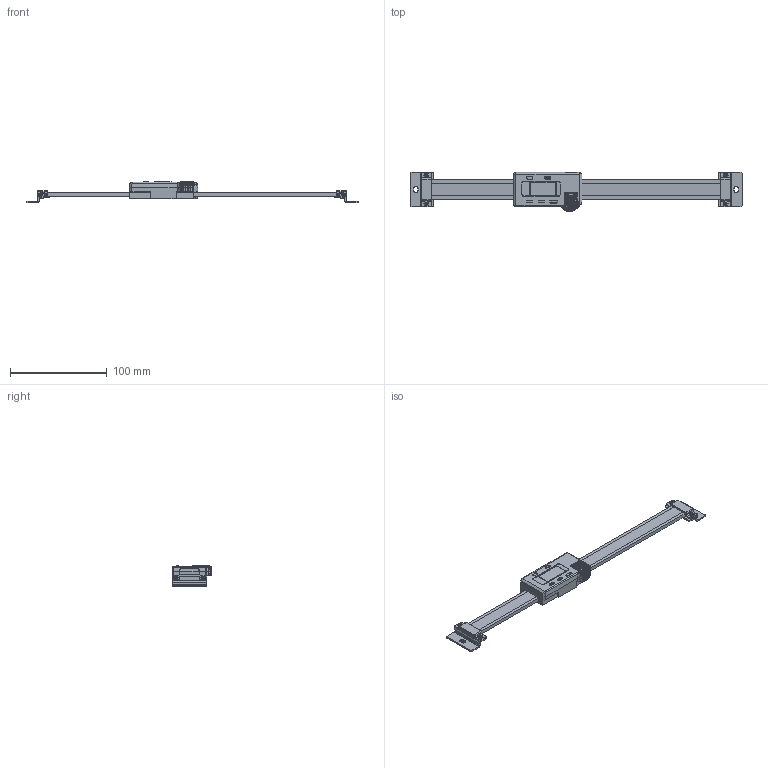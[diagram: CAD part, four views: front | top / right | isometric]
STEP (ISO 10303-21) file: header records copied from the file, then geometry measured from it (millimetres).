
FILE_DESCRIPTION(('Creo Elements/Direct Modeling STEP Export'),'2;1');
FILE_NAME('SD-20E.stp','2020-01-09T11:48:05',(''),(''),'Creo Elements/Direct Modeling STEP processor for AP214 (Solid Model)','Creo Elements/Direct Modeling 18.1I 13-Aug-2016 (C) Parametric Technology GmbH','');
FILE_SCHEMA(('AUTOMOTIVE_DESIGN { 1 0 10303 214 1 1 1 1 }'));
Length unit declared in the file: millimetre
Products named in the file (5): SLIDER; BEAM; HOLDER.2; HOLDER.1; 572-462_SD-20E
Assembly tree (4 placements, depth 2):
  572-462_SD-20E
    HOLDER.1
    HOLDER.2
    BEAM
    SLIDER
Bounding box: 344 x 41.36 x 22.62 mm (x, y, z)
Volume: 49525.1 mm3; surface area: 37213.7 mm2
Topology: 4 solids, 4 shells, 834 faces, 2178 edges, 1378 vertices
Faces by surface type: plane 439, cylinder 176, bspline 120, extrusion 48, cone 37, torus 14
Entity records: 42067 total; most frequent: CARTESIAN_POINT 21635, ORIENTED_EDGE 4358, DIRECTION 3242, EDGE_CURVE 2178, VERTEX_POINT 1378, VECTOR 1294, LINE 1249, AXIS2_PLACEMENT_3D 974
